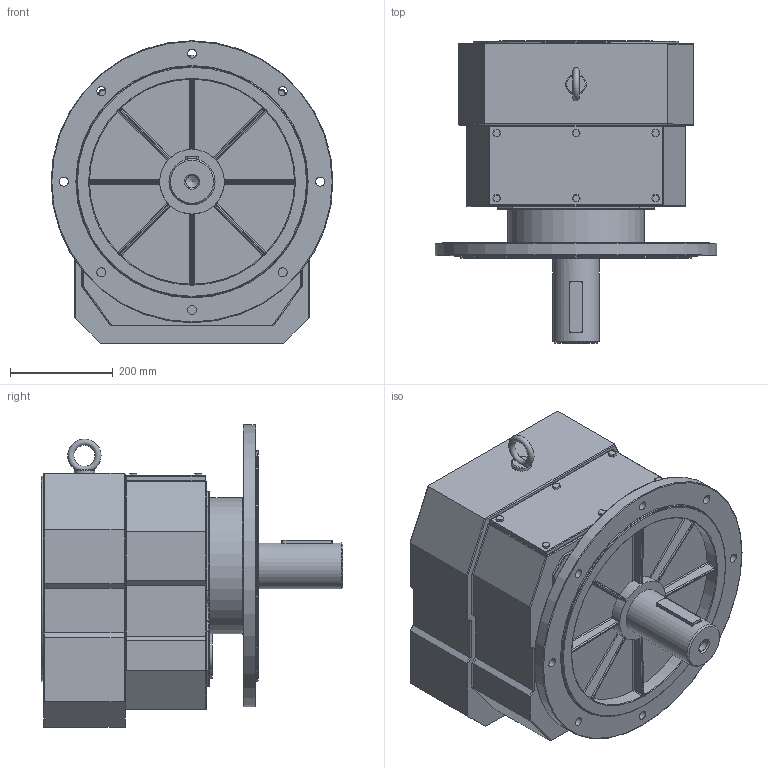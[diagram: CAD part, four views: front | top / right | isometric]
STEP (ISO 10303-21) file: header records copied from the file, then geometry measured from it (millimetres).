
FILE_DESCRIPTION((''),'2;1');
FILE_NAME('D:\PAWEŁ\ZLECENIA\2011 DualSystem\Przekładnie DR\DR130\STEP\DRF130_fi 550.stp','2012-06-11T12:33:10',('admin'),(''),'Autodesk Inventor 2009','Autodesk Inventor 2009','');
FILE_SCHEMA(('AUTOMOTIVE_DESIGN { 1 0 10303 214 1 1 1 1 }'));
Length unit declared in the file: millimetre
Products named in the file (1): DRF130_fi 550
Bounding box: 550 x 589 x 590 mm (x, y, z)
Volume: 73127632.7 mm3; surface area: 1716488 mm2
Topology: 2 solids, 2 shells, 547 faces, 1311 edges, 743 vertices
Faces by surface type: cylinder 238, plane 166, bspline 71, sphere 44, torus 26, cone 2
Full cylindrical faces by diameter (mm): 40 x1, 60 x1, 80 x1, 90 x2, 126 x1, 266 x1, 310 x1, 400 x1, 450 x1, 550 x1
Entity records: 20245 total; most frequent: CARTESIAN_POINT 7832, DIRECTION 2610, ORIENTED_EDGE 2454, EDGE_CURVE 1227, AXIS2_PLACEMENT_3D 1001, VERTEX_POINT 730, EDGE_LOOP 617, VECTOR 608
